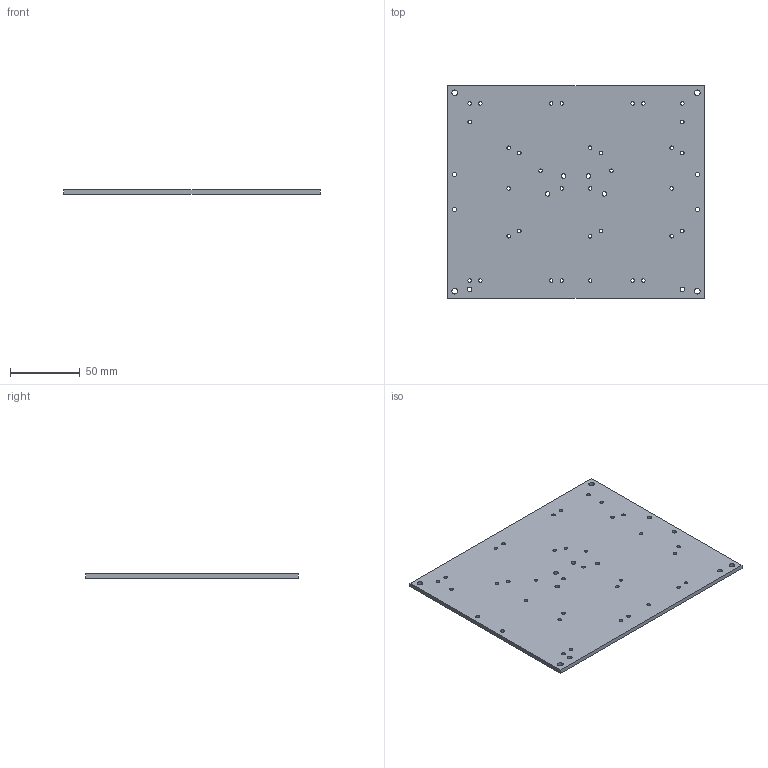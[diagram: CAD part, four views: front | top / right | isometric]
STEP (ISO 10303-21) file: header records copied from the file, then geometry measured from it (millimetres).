
FILE_DESCRIPTION(/* description */ ('Alibre Inc.'),/* implementation_level */ '2;1');
FILE_NAME(/* name */ 'export-38F77D5B-DC5D-4F7B-9967-3CA813B6A670',/* time_stamp */ '2021-01-21T13:14:04-07:00',/* author */ (''),/* organization */ (''),/* preprocessor_version */ 'ST-DEVELOPER v17',/* originating_system */ 'Alibre',/* authorisation */ '');
FILE_SCHEMA (('CONFIG_CONTROL_DESIGN'));
Length unit declared in the file: centimetre
Bounding box: 184.15 x 152.4 x 3 mm (x, y, z)
Volume: 83303.1 mm3; surface area: 58806.3 mm2
Topology: 1 solids, 1 shells, 54 faces, 156 edges, 104 vertices
Faces by surface type: cylinder 48, plane 6
Full cylindrical faces by diameter (mm): 2.5 x34, 3 x4, 3.3 x6, 4 x4
Entity records: 1867 total; most frequent: DIRECTION 306, CARTESIAN_POINT 266, ORIENTED_EDGE 216, EDGE_LOOP 198, FACE_BOUND 198, AXIS2_PLACEMENT_3D 150, EDGE_CURVE 108, VERTEX_POINT 104
